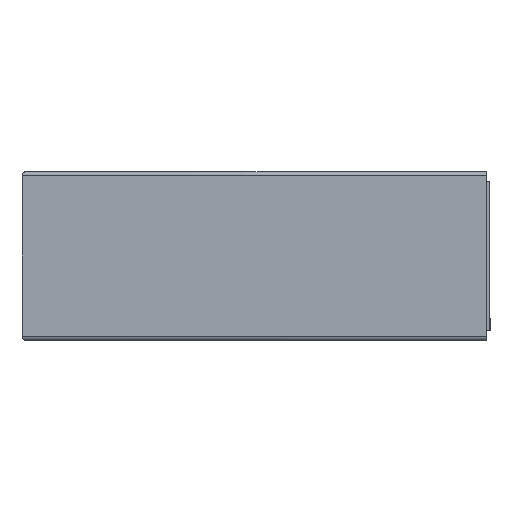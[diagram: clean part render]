
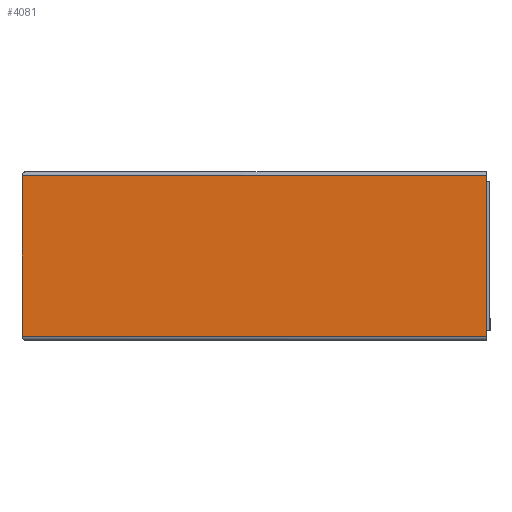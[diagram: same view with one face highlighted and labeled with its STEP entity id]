
A CAD part, left-side view. The second image highlights one B-rep face of the part: STEP entity #4081.
In plain terms, the highlighted planar face has unit normal (-1, 0, 0).
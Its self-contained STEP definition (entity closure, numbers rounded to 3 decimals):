
#345=FACE_OUTER_BOUND('',#565,.T.);
#565=EDGE_LOOP('',(#3695,#3696,#3697,#3698));
#1065=LINE('',#6564,#1579);
#1067=LINE('',#6573,#1581);
#1074=LINE('',#6589,#1588);
#1080=LINE('',#6602,#1594);
#1579=VECTOR('',#5358,304.8);
#1581=VECTOR('',#5366,304.8);
#1588=VECTOR('',#5381,304.8);
#1594=VECTOR('',#5395,304.8);
#1965=VERTEX_POINT('',#6562);
#1966=VERTEX_POINT('',#6563);
#1969=VERTEX_POINT('',#6571);
#1970=VERTEX_POINT('',#6572);
#2535=EDGE_CURVE('',#1965,#1966,#1065,.T.);
#2539=EDGE_CURVE('',#1969,#1970,#1067,.T.);
#2548=EDGE_CURVE('',#1966,#1969,#1074,.T.);
#2555=EDGE_CURVE('',#1970,#1965,#1080,.T.);
#3695=ORIENTED_EDGE('',*,*,#2555,.T.);
#3696=ORIENTED_EDGE('',*,*,#2535,.T.);
#3697=ORIENTED_EDGE('',*,*,#2548,.T.);
#3698=ORIENTED_EDGE('',*,*,#2539,.T.);
#3876=PLANE('',#4353);
#4081=ADVANCED_FACE('',(#345),#3876,.T.);
#4353=AXIS2_PLACEMENT_3D('',#6605,#5400,#5401);
#5358=DIRECTION('',(0.,-1.,0.));
#5366=DIRECTION('',(0.,1.,0.));
#5381=DIRECTION('',(0.,0.,1.));
#5395=DIRECTION('',(0.,0.,-1.));
#5400=DIRECTION('center_axis',(-1.,0.,0.));
#5401=DIRECTION('ref_axis',(0.,0.,1.));
#6562=CARTESIAN_POINT('',(-300.,63.566,1.));
#6563=CARTESIAN_POINT('',(-300.,-63.434,1.));
#6564=CARTESIAN_POINT('',(-300.,63.566,1.));
#6571=CARTESIAN_POINT('',(-300.,-63.434,45.011));
#6572=CARTESIAN_POINT('',(-300.,63.566,45.011));
#6573=CARTESIAN_POINT('',(-300.,-63.434,45.011));
#6589=CARTESIAN_POINT('',(-300.,-63.434,1.));
#6602=CARTESIAN_POINT('',(-300.,63.566,45.011));
#6605=CARTESIAN_POINT('Origin',(-300.,61.566,1.));
